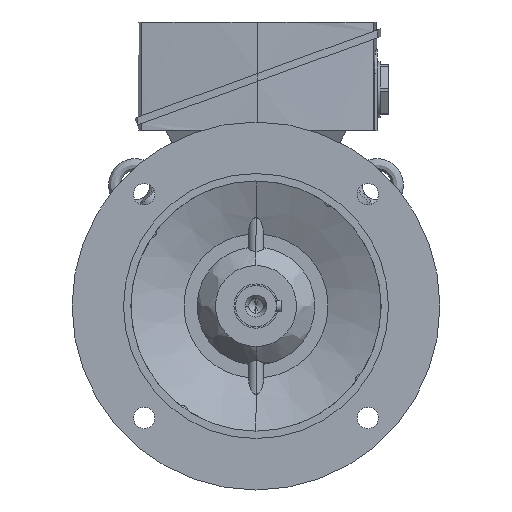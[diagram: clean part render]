
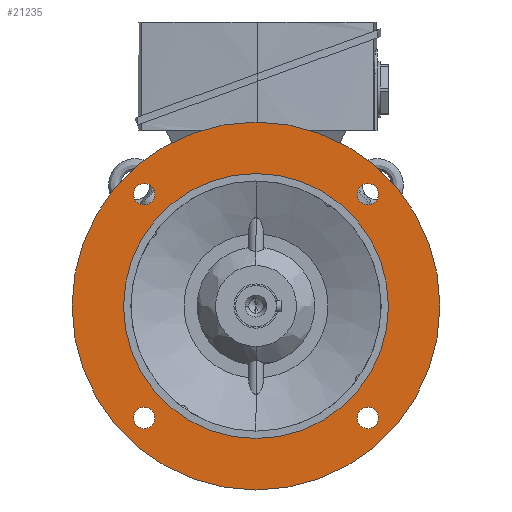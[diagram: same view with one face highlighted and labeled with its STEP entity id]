
A CAD part, left-side view. The second image highlights one B-rep face of the part: STEP entity #21235.
In plain terms, the highlighted planar face has unit normal (-1, 0, 0).
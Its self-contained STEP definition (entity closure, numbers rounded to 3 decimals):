
#193 = ORIENTED_EDGE ( 'NONE', *, *, #20606, .T. ) ;
#407 = ORIENTED_EDGE ( 'NONE', *, *, #14559, .T. ) ;
#520 = CARTESIAN_POINT ( 'NONE',  ( -40.5, 76.014, 83.264 ) ) ;
#899 = CIRCLE ( 'NONE', #16897, 90. ) ;
#1087 = CARTESIAN_POINT ( 'NONE',  ( -40.5, 0., 90. ) ) ;
#1368 = CIRCLE ( 'NONE', #17836, 7.25 ) ;
#1395 = AXIS2_PLACEMENT_3D ( 'NONE', #29643, #15628, #1488 ) ;
#1488 = DIRECTION ( 'NONE',  ( 0., 0., -1. ) ) ;
#1963 = CARTESIAN_POINT ( 'NONE',  ( -40.5, -76.014, -76.014 ) ) ;
#2235 = ORIENTED_EDGE ( 'NONE', *, *, #10018, .F. ) ;
#2501 = CARTESIAN_POINT ( 'NONE',  ( -40.5, 107.5, 0. ) ) ;
#2556 = EDGE_CURVE ( 'NONE', #11468, #12301, #899, .T. ) ;
#2692 = EDGE_LOOP ( 'NONE', ( #6206, #13081 ) ) ;
#3249 = VERTEX_POINT ( 'NONE', #23174 ) ;
#3469 = CARTESIAN_POINT ( 'NONE',  ( -40.5, 76.014, 76.014 ) ) ;
#4093 = CARTESIAN_POINT ( 'NONE',  ( -40.5, 0., 0. ) ) ;
#4328 = DIRECTION ( 'NONE',  ( 0., 0., -1. ) ) ;
#4695 = CIRCLE ( 'NONE', #7808, 125. ) ;
#4866 = DIRECTION ( 'NONE',  ( 0., 0., 1. ) ) ;
#4938 = AXIS2_PLACEMENT_3D ( 'NONE', #1963, #18440, #4328 ) ;
#5127 = EDGE_CURVE ( 'NONE', #26073, #11922, #15204, .T. ) ;
#5219 = EDGE_LOOP ( 'NONE', ( #2235, #12985 ) ) ;
#5572 = CARTESIAN_POINT ( 'NONE',  ( -40.5, 76.014, -83.264 ) ) ;
#5845 = DIRECTION ( 'NONE',  ( 0., 0., -1. ) ) ;
#5876 = CIRCLE ( 'NONE', #6277, 90. ) ;
#5950 = ORIENTED_EDGE ( 'NONE', *, *, #9795, .T. ) ;
#6200 = ORIENTED_EDGE ( 'NONE', *, *, #11218, .T. ) ;
#6206 = ORIENTED_EDGE ( 'NONE', *, *, #14990, .T. ) ;
#6238 = EDGE_CURVE ( 'NONE', #11922, #26073, #28403, .T. ) ;
#6277 = AXIS2_PLACEMENT_3D ( 'NONE', #24701, #10723, #27075 ) ;
#6451 = VERTEX_POINT ( 'NONE', #5572 ) ;
#6471 = DIRECTION ( 'NONE',  ( 0., 0., 1. ) ) ;
#6892 = DIRECTION ( 'NONE',  ( 1., 0., 0. ) ) ;
#6923 = AXIS2_PLACEMENT_3D ( 'NONE', #2501, #18956, #4866 ) ;
#7202 = ORIENTED_EDGE ( 'NONE', *, *, #5127, .T. ) ;
#7491 = VERTEX_POINT ( 'NONE', #14240 ) ;
#7731 = EDGE_CURVE ( 'NONE', #3249, #6451, #28703, .T. ) ;
#7751 = CARTESIAN_POINT ( 'NONE',  ( -40.5, 0., 0. ) ) ;
#7808 = AXIS2_PLACEMENT_3D ( 'NONE', #7751, #24124, #10161 ) ;
#7916 = ORIENTED_EDGE ( 'NONE', *, *, #19591, .T. ) ;
#8491 = DIRECTION ( 'NONE',  ( 1., 0., 0. ) ) ;
#8994 = AXIS2_PLACEMENT_3D ( 'NONE', #20942, #6892, #23298 ) ;
#9002 = CIRCLE ( 'NONE', #29507, 7.25 ) ;
#9537 = ORIENTED_EDGE ( 'NONE', *, *, #6238, .T. ) ;
#9575 = EDGE_CURVE ( 'NONE', #7491, #16854, #25266, .T. ) ;
#9795 = EDGE_CURVE ( 'NONE', #19021, #24510, #1368, .T. ) ;
#10018 = EDGE_CURVE ( 'NONE', #16854, #7491, #4695, .T. ) ;
#10127 = FACE_BOUND ( 'NONE', #14445, .T. ) ;
#10161 = DIRECTION ( 'NONE',  ( 0., 0., 1. ) ) ;
#10723 = DIRECTION ( 'NONE',  ( 1., 0., 0. ) ) ;
#11218 = EDGE_CURVE ( 'NONE', #18567, #25208, #24530, .T. ) ;
#11468 = VERTEX_POINT ( 'NONE', #21248 ) ;
#11753 = EDGE_LOOP ( 'NONE', ( #7916, #5950 ) ) ;
#11922 = VERTEX_POINT ( 'NONE', #30440 ) ;
#12301 = VERTEX_POINT ( 'NONE', #1087 ) ;
#12653 = DIRECTION ( 'NONE',  ( 1., 0., 0. ) ) ;
#12985 = ORIENTED_EDGE ( 'NONE', *, *, #9575, .F. ) ;
#13081 = ORIENTED_EDGE ( 'NONE', *, *, #2556, .T. ) ;
#13319 = DIRECTION ( 'NONE',  ( 1., 0., 0. ) ) ;
#13360 = CARTESIAN_POINT ( 'NONE',  ( -40.5, -76.014, 76.014 ) ) ;
#13396 = DIRECTION ( 'NONE',  ( 1., 0., 0. ) ) ;
#14240 = CARTESIAN_POINT ( 'NONE',  ( -40.5, 0., -125. ) ) ;
#14445 = EDGE_LOOP ( 'NONE', ( #407, #26714 ) ) ;
#14559 = EDGE_CURVE ( 'NONE', #6451, #3249, #9002, .T. ) ;
#14990 = EDGE_CURVE ( 'NONE', #12301, #11468, #5876, .T. ) ;
#15204 = CIRCLE ( 'NONE', #27737, 7.25 ) ;
#15512 = EDGE_LOOP ( 'NONE', ( #6200, #193 ) ) ;
#15601 = FACE_BOUND ( 'NONE', #25322, .T. ) ;
#15628 = DIRECTION ( 'NONE',  ( 1., 0., 0. ) ) ;
#15686 = DIRECTION ( 'NONE',  ( 0., 0., -1. ) ) ;
#16342 = FACE_BOUND ( 'NONE', #11753, .T. ) ;
#16854 = VERTEX_POINT ( 'NONE', #28099 ) ;
#16897 = AXIS2_PLACEMENT_3D ( 'NONE', #4093, #20537, #6471 ) ;
#17067 = FACE_BOUND ( 'NONE', #2692, .T. ) ;
#17081 = AXIS2_PLACEMENT_3D ( 'NONE', #13360, #29710, #15686 ) ;
#17354 = CARTESIAN_POINT ( 'NONE',  ( -40.5, 76.014, 68.764 ) ) ;
#17836 = AXIS2_PLACEMENT_3D ( 'NONE', #27383, #13396, #29747 ) ;
#18440 = DIRECTION ( 'NONE',  ( 1., 0., 0. ) ) ;
#18567 = VERTEX_POINT ( 'NONE', #23434 ) ;
#18956 = DIRECTION ( 'NONE',  ( -1., 0., 0. ) ) ;
#19021 = VERTEX_POINT ( 'NONE', #520 ) ;
#19591 = EDGE_CURVE ( 'NONE', #24510, #19021, #29955, .T. ) ;
#19937 = DIRECTION ( 'NONE',  ( 1., 0., 0. ) ) ;
#20537 = DIRECTION ( 'NONE',  ( 1., 0., 0. ) ) ;
#20606 = EDGE_CURVE ( 'NONE', #25208, #18567, #24029, .T. ) ;
#20942 = CARTESIAN_POINT ( 'NONE',  ( -40.5, 0., 0. ) ) ;
#21235 = ADVANCED_FACE ( 'NONE', ( #17067, #21816, #28064, #16342, #10127, #15601 ), #30439, .T. ) ;
#21248 = CARTESIAN_POINT ( 'NONE',  ( -40.5, 0., -90. ) ) ;
#21263 = AXIS2_PLACEMENT_3D ( 'NONE', #22516, #8491, #24857 ) ;
#21607 = CARTESIAN_POINT ( 'NONE',  ( -40.5, -76.014, -68.764 ) ) ;
#21816 = FACE_OUTER_BOUND ( 'NONE', #5219, .T. ) ;
#22516 = CARTESIAN_POINT ( 'NONE',  ( -40.5, -76.014, 76.014 ) ) ;
#22599 = CARTESIAN_POINT ( 'NONE',  ( -40.5, -76.014, 83.264 ) ) ;
#22989 = AXIS2_PLACEMENT_3D ( 'NONE', #3469, #19937, #5845 ) ;
#23174 = CARTESIAN_POINT ( 'NONE',  ( -40.5, 76.014, -68.764 ) ) ;
#23298 = DIRECTION ( 'NONE',  ( 0., 0., 1. ) ) ;
#23434 = CARTESIAN_POINT ( 'NONE',  ( -40.5, -76.014, 68.764 ) ) ;
#24029 = CIRCLE ( 'NONE', #21263, 7.25 ) ;
#24124 = DIRECTION ( 'NONE',  ( 1., 0., 0. ) ) ;
#24510 = VERTEX_POINT ( 'NONE', #17354 ) ;
#24530 = CIRCLE ( 'NONE', #17081, 7.25 ) ;
#24701 = CARTESIAN_POINT ( 'NONE',  ( -40.5, 0., 0. ) ) ;
#24857 = DIRECTION ( 'NONE',  ( 0., 0., -1. ) ) ;
#25208 = VERTEX_POINT ( 'NONE', #22599 ) ;
#25266 = CIRCLE ( 'NONE', #8994, 125. ) ;
#25322 = EDGE_LOOP ( 'NONE', ( #9537, #7202 ) ) ;
#26073 = VERTEX_POINT ( 'NONE', #21607 ) ;
#26649 = CARTESIAN_POINT ( 'NONE',  ( -40.5, -76.014, -76.014 ) ) ;
#26714 = ORIENTED_EDGE ( 'NONE', *, *, #7731, .T. ) ;
#27075 = DIRECTION ( 'NONE',  ( 0., 0., 1. ) ) ;
#27311 = CARTESIAN_POINT ( 'NONE',  ( -40.5, 76.014, -76.014 ) ) ;
#27383 = CARTESIAN_POINT ( 'NONE',  ( -40.5, 76.014, 76.014 ) ) ;
#27737 = AXIS2_PLACEMENT_3D ( 'NONE', #26649, #12653, #29023 ) ;
#28064 = FACE_BOUND ( 'NONE', #15512, .T. ) ;
#28099 = CARTESIAN_POINT ( 'NONE',  ( -40.5, 0., 125. ) ) ;
#28403 = CIRCLE ( 'NONE', #4938, 7.25 ) ;
#28703 = CIRCLE ( 'NONE', #1395, 7.25 ) ;
#29023 = DIRECTION ( 'NONE',  ( 0., 0., -1. ) ) ;
#29507 = AXIS2_PLACEMENT_3D ( 'NONE', #27311, #13319, #29672 ) ;
#29643 = CARTESIAN_POINT ( 'NONE',  ( -40.5, 76.014, -76.014 ) ) ;
#29672 = DIRECTION ( 'NONE',  ( 0., 0., -1. ) ) ;
#29710 = DIRECTION ( 'NONE',  ( 1., 0., 0. ) ) ;
#29747 = DIRECTION ( 'NONE',  ( 0., 0., -1. ) ) ;
#29955 = CIRCLE ( 'NONE', #22989, 7.25 ) ;
#30439 = PLANE ( 'NONE',  #6923 ) ;
#30440 = CARTESIAN_POINT ( 'NONE',  ( -40.5, -76.014, -83.264 ) ) ;
